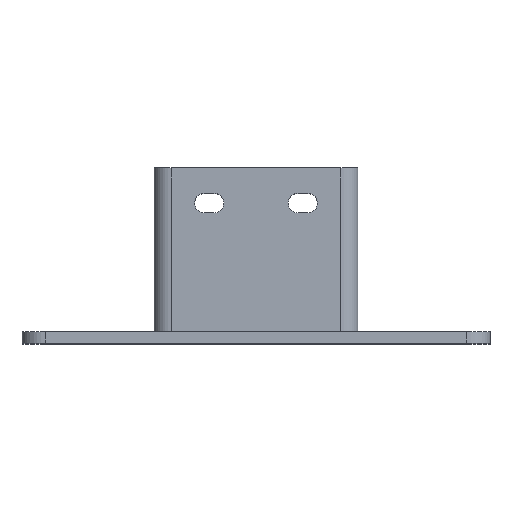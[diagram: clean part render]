
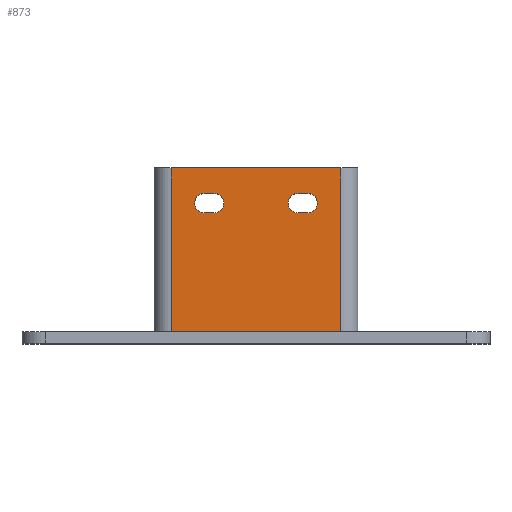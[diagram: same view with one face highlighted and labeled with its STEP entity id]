
A CAD part, top view. The second image highlights one B-rep face of the part: STEP entity #873.
In plain terms, the highlighted planar face has unit normal (0, 0, 1).
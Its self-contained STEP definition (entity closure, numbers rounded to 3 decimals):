
#42 = VERTEX_POINT ( 'NONE', #2127 ) ;
#67 = VERTEX_POINT ( 'NONE', #359 ) ;
#86 = DIRECTION ( 'NONE',  ( 0., 0., 1. ) ) ;
#107 = ORIENTED_EDGE ( 'NONE', *, *, #674, .F. ) ;
#167 = VECTOR ( 'NONE', #1820, 1000. ) ;
#170 = LINE ( 'NONE', #1689, #487 ) ;
#172 = LINE ( 'NONE', #400, #1952 ) ;
#175 = VERTEX_POINT ( 'NONE', #2820 ) ;
#244 = EDGE_CURVE ( 'NONE', #67, #486, #1520, .T. ) ;
#247 = DIRECTION ( 'NONE',  ( 1., 0., 0. ) ) ;
#265 = EDGE_CURVE ( 'NONE', #1326, #1637, #1097, .T. ) ;
#296 = DIRECTION ( 'NONE',  ( 0., 0., -1. ) ) ;
#302 = CARTESIAN_POINT ( 'NONE',  ( -22., 20., 0. ) ) ;
#358 = CARTESIAN_POINT ( 'NONE',  ( -36.2, -35., 0. ) ) ;
#359 = CARTESIAN_POINT ( 'NONE',  ( 36.2, -35., 0. ) ) ;
#400 = CARTESIAN_POINT ( 'NONE',  ( -22., 15.75, 0. ) ) ;
#414 = CARTESIAN_POINT ( 'NONE',  ( 36.2, -35., 0. ) ) ;
#477 = EDGE_CURVE ( 'NONE', #486, #1326, #2106, .T. ) ;
#484 = FACE_BOUND ( 'NONE', #2740, .T. ) ;
#486 = VERTEX_POINT ( 'NONE', #2301 ) ;
#487 = VECTOR ( 'NONE', #648, 1000. ) ;
#517 = DIRECTION ( 'NONE',  ( 1., 0., 0. ) ) ;
#526 = CARTESIAN_POINT ( 'NONE',  ( -13.75, 20., 0. ) ) ;
#527 = CARTESIAN_POINT ( 'NONE',  ( -22., 15.75, 0. ) ) ;
#549 = ORIENTED_EDGE ( 'NONE', *, *, #265, .T. ) ;
#564 = ORIENTED_EDGE ( 'NONE', *, *, #477, .T. ) ;
#576 = CARTESIAN_POINT ( 'NONE',  ( -43.5, 35., 0. ) ) ;
#592 = DIRECTION ( 'NONE',  ( 0., -1., 0. ) ) ;
#644 = VERTEX_POINT ( 'NONE', #1049 ) ;
#648 = DIRECTION ( 'NONE',  ( 1., 0., 0. ) ) ;
#674 = EDGE_CURVE ( 'NONE', #802, #2279, #170, .T. ) ;
#692 = ORIENTED_EDGE ( 'NONE', *, *, #1824, .F. ) ;
#704 = ORIENTED_EDGE ( 'NONE', *, *, #1143, .F. ) ;
#731 = DIRECTION ( 'NONE',  ( -1., 0., 0. ) ) ;
#738 = CARTESIAN_POINT ( 'NONE',  ( 22., 24.25, 0. ) ) ;
#743 = EDGE_CURVE ( 'NONE', #42, #2734, #879, .T. ) ;
#802 = VERTEX_POINT ( 'NONE', #2641 ) ;
#811 = DIRECTION ( 'NONE',  ( 0., 0., 1. ) ) ;
#873 = ADVANCED_FACE ( 'NONE', ( #484, #1363, #2230 ), #1148, .F. ) ;
#879 = LINE ( 'NONE', #1747, #1316 ) ;
#882 = ORIENTED_EDGE ( 'NONE', *, *, #2055, .T. ) ;
#942 = VERTEX_POINT ( 'NONE', #527 ) ;
#943 = CARTESIAN_POINT ( 'NONE',  ( 18., 24.25, 0. ) ) ;
#963 = CARTESIAN_POINT ( 'NONE',  ( -18., 20., 0. ) ) ;
#964 = DIRECTION ( 'NONE',  ( 1., 0., 0. ) ) ;
#979 = DIRECTION ( 'NONE',  ( 0., 0., 1. ) ) ;
#989 = VECTOR ( 'NONE', #592, 1000. ) ;
#1010 = DIRECTION ( 'NONE',  ( 1., 0., 0. ) ) ;
#1025 = CIRCLE ( 'NONE', #2619, 4.25 ) ;
#1049 = CARTESIAN_POINT ( 'NONE',  ( -18., 15.75, 0. ) ) ;
#1083 = EDGE_CURVE ( 'NONE', #175, #1975, #1889, .T. ) ;
#1095 = DIRECTION ( 'NONE',  ( -1., 0., 0. ) ) ;
#1097 = LINE ( 'NONE', #1705, #989 ) ;
#1143 = EDGE_CURVE ( 'NONE', #2734, #942, #2023, .T. ) ;
#1148 = PLANE ( 'NONE',  #2655 ) ;
#1157 = ORIENTED_EDGE ( 'NONE', *, *, #1083, .F. ) ;
#1174 = CARTESIAN_POINT ( 'NONE',  ( -43.5, -35., 0. ) ) ;
#1194 = CARTESIAN_POINT ( 'NONE',  ( 22., 20., 0. ) ) ;
#1219 = ORIENTED_EDGE ( 'NONE', *, *, #244, .T. ) ;
#1316 = VECTOR ( 'NONE', #1095, 1000. ) ;
#1326 = VERTEX_POINT ( 'NONE', #1485 ) ;
#1363 = FACE_BOUND ( 'NONE', #2101, .T. ) ;
#1379 = DIRECTION ( 'NONE',  ( 0., 0., 1. ) ) ;
#1393 = AXIS2_PLACEMENT_3D ( 'NONE', #1564, #1835, #247 ) ;
#1446 = ORIENTED_EDGE ( 'NONE', *, *, #743, .F. ) ;
#1455 = CARTESIAN_POINT ( 'NONE',  ( 22., 20., 0. ) ) ;
#1485 = CARTESIAN_POINT ( 'NONE',  ( -36.2, 35., 0. ) ) ;
#1498 = ORIENTED_EDGE ( 'NONE', *, *, #2739, .F. ) ;
#1520 = LINE ( 'NONE', #414, #2356 ) ;
#1564 = CARTESIAN_POINT ( 'NONE',  ( 18., 20., 0. ) ) ;
#1573 = CIRCLE ( 'NONE', #1393, 4.25 ) ;
#1612 = EDGE_CURVE ( 'NONE', #2279, #175, #1025, .T. ) ;
#1637 = VERTEX_POINT ( 'NONE', #358 ) ;
#1661 = VECTOR ( 'NONE', #1725, 1000. ) ;
#1689 = CARTESIAN_POINT ( 'NONE',  ( 18., 15.75, 0. ) ) ;
#1705 = CARTESIAN_POINT ( 'NONE',  ( -36.2, 35., 0. ) ) ;
#1725 = DIRECTION ( 'NONE',  ( -1., 0., 0. ) ) ;
#1747 = CARTESIAN_POINT ( 'NONE',  ( -22., 24.25, 0. ) ) ;
#1801 = CIRCLE ( 'NONE', #2524, 4.25 ) ;
#1803 = CIRCLE ( 'NONE', #2439, 4.25 ) ;
#1820 = DIRECTION ( 'NONE',  ( -1., 0., 0. ) ) ;
#1824 = EDGE_CURVE ( 'NONE', #1975, #2239, #1898, .T. ) ;
#1835 = DIRECTION ( 'NONE',  ( 0., 0., 1. ) ) ;
#1889 = CIRCLE ( 'NONE', #2472, 4.25 ) ;
#1898 = LINE ( 'NONE', #2365, #1661 ) ;
#1903 = ORIENTED_EDGE ( 'NONE', *, *, #1612, .F. ) ;
#1950 = EDGE_CURVE ( 'NONE', #2190, #42, #1801, .T. ) ;
#1952 = VECTOR ( 'NONE', #2345, 1000. ) ;
#1972 = CARTESIAN_POINT ( 'NONE',  ( 22., 15.75, 0. ) ) ;
#1975 = VERTEX_POINT ( 'NONE', #738 ) ;
#2015 = CARTESIAN_POINT ( 'NONE',  ( 0., 0., 0. ) ) ;
#2023 = CIRCLE ( 'NONE', #2390, 4.25 ) ;
#2055 = EDGE_CURVE ( 'NONE', #1637, #67, #2251, .T. ) ;
#2100 = ORIENTED_EDGE ( 'NONE', *, *, #2475, .F. ) ;
#2101 = EDGE_LOOP ( 'NONE', ( #1498, #704, #1446, #2355, #2622 ) ) ;
#2106 = LINE ( 'NONE', #576, #167 ) ;
#2127 = CARTESIAN_POINT ( 'NONE',  ( -18., 24.25, 0. ) ) ;
#2134 = DIRECTION ( 'NONE',  ( 1., 0., 0. ) ) ;
#2140 = DIRECTION ( 'NONE',  ( 0., 1., 0. ) ) ;
#2190 = VERTEX_POINT ( 'NONE', #526 ) ;
#2230 = FACE_OUTER_BOUND ( 'NONE', #2354, .T. ) ;
#2239 = VERTEX_POINT ( 'NONE', #943 ) ;
#2251 = LINE ( 'NONE', #1174, #2435 ) ;
#2279 = VERTEX_POINT ( 'NONE', #1972 ) ;
#2301 = CARTESIAN_POINT ( 'NONE',  ( 36.2, 35., 0. ) ) ;
#2319 = DIRECTION ( 'NONE',  ( 1., 0., 0. ) ) ;
#2345 = DIRECTION ( 'NONE',  ( 1., 0., 0. ) ) ;
#2354 = EDGE_LOOP ( 'NONE', ( #549, #882, #1219, #564 ) ) ;
#2355 = ORIENTED_EDGE ( 'NONE', *, *, #1950, .F. ) ;
#2356 = VECTOR ( 'NONE', #2140, 1000. ) ;
#2365 = CARTESIAN_POINT ( 'NONE',  ( 18., 24.25, 0. ) ) ;
#2376 = CARTESIAN_POINT ( 'NONE',  ( -22., 24.25, 0. ) ) ;
#2390 = AXIS2_PLACEMENT_3D ( 'NONE', #302, #86, #964 ) ;
#2435 = VECTOR ( 'NONE', #2682, 1000. ) ;
#2439 = AXIS2_PLACEMENT_3D ( 'NONE', #963, #1379, #517 ) ;
#2446 = EDGE_CURVE ( 'NONE', #644, #2190, #1803, .T. ) ;
#2472 = AXIS2_PLACEMENT_3D ( 'NONE', #1194, #811, #2319 ) ;
#2475 = EDGE_CURVE ( 'NONE', #2239, #802, #1573, .T. ) ;
#2524 = AXIS2_PLACEMENT_3D ( 'NONE', #2587, #2828, #2134 ) ;
#2587 = CARTESIAN_POINT ( 'NONE',  ( -18., 20., 0. ) ) ;
#2619 = AXIS2_PLACEMENT_3D ( 'NONE', #1455, #979, #1010 ) ;
#2622 = ORIENTED_EDGE ( 'NONE', *, *, #2446, .F. ) ;
#2641 = CARTESIAN_POINT ( 'NONE',  ( 18., 15.75, 0. ) ) ;
#2655 = AXIS2_PLACEMENT_3D ( 'NONE', #2015, #296, #731 ) ;
#2682 = DIRECTION ( 'NONE',  ( 1., 0., 0. ) ) ;
#2734 = VERTEX_POINT ( 'NONE', #2376 ) ;
#2739 = EDGE_CURVE ( 'NONE', #942, #644, #172, .T. ) ;
#2740 = EDGE_LOOP ( 'NONE', ( #107, #2100, #692, #1157, #1903 ) ) ;
#2820 = CARTESIAN_POINT ( 'NONE',  ( 26.25, 20., 0. ) ) ;
#2828 = DIRECTION ( 'NONE',  ( 0., 0., 1. ) ) ;
